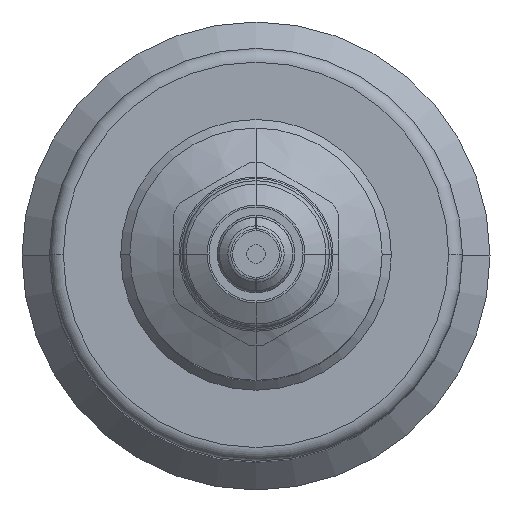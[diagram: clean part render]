
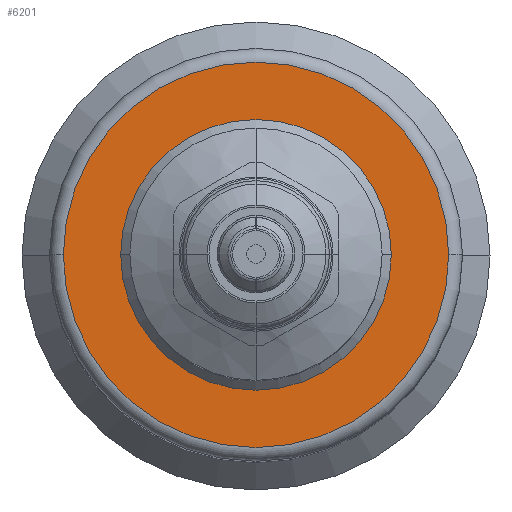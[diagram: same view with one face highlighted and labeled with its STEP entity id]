
A CAD part, top view. The second image highlights one B-rep face of the part: STEP entity #6201.
In plain terms, the highlighted planar face has unit normal (0, 0, 1).
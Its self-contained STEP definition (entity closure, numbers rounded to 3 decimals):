
#130 = PLANE ( 'NONE',  #6396 ) ;
#628 = FACE_OUTER_BOUND ( 'NONE', #3754, .T. ) ;
#1194 = EDGE_CURVE ( 'NONE', #10902, #19402, #18852, .T. ) ;
#1523 = DIRECTION ( 'NONE',  ( 0., 0., -1. ) ) ;
#1872 = ORIENTED_EDGE ( 'NONE', *, *, #9908, .F. ) ;
#2607 = ORIENTED_EDGE ( 'NONE', *, *, #1194, .T. ) ;
#3529 = CARTESIAN_POINT ( 'NONE',  ( 0., 0., 195. ) ) ;
#3700 = DIRECTION ( 'NONE',  ( 1., 0., 0. ) ) ;
#3754 = EDGE_LOOP ( 'NONE', ( #19788, #1872 ) ) ;
#4580 = AXIS2_PLACEMENT_3D ( 'NONE', #8264, #15115, #10807 ) ;
#5117 = DIRECTION ( 'NONE',  ( -1., 0., 0. ) ) ;
#6201 = ADVANCED_FACE ( 'NONE', ( #9656, #628 ), #130, .T. ) ;
#6396 = AXIS2_PLACEMENT_3D ( 'NONE', #19415, #14738, #3700 ) ;
#7534 = CARTESIAN_POINT ( 'NONE',  ( -42., 0., 195. ) ) ;
#7741 = ORIENTED_EDGE ( 'NONE', *, *, #12267, .T. ) ;
#8264 = CARTESIAN_POINT ( 'NONE',  ( 0., 0., 195. ) ) ;
#8291 = CIRCLE ( 'NONE', #17664, 42. ) ;
#8461 = EDGE_LOOP ( 'NONE', ( #7741, #2607 ) ) ;
#9189 = CARTESIAN_POINT ( 'NONE',  ( 0., 0., 195. ) ) ;
#9656 = FACE_BOUND ( 'NONE', #8461, .T. ) ;
#9908 = EDGE_CURVE ( 'NONE', #9978, #17611, #11182, .T. ) ;
#9978 = VERTEX_POINT ( 'NONE', #13309 ) ;
#10749 = DIRECTION ( 'NONE',  ( -1., 0., 0. ) ) ;
#10807 = DIRECTION ( 'NONE',  ( -1., 0., 0. ) ) ;
#10902 = VERTEX_POINT ( 'NONE', #11545 ) ;
#11094 = CARTESIAN_POINT ( 'NONE',  ( 0., 0., 195. ) ) ;
#11182 = CIRCLE ( 'NONE', #12561, 42. ) ;
#11494 = CIRCLE ( 'NONE', #20077, 29.5 ) ;
#11545 = CARTESIAN_POINT ( 'NONE',  ( 29.5, 0., 195. ) ) ;
#12267 = EDGE_CURVE ( 'NONE', #19402, #10902, #11494, .T. ) ;
#12561 = AXIS2_PLACEMENT_3D ( 'NONE', #3529, #14655, #5117 ) ;
#12690 = DIRECTION ( 'NONE',  ( -1., 0., 0. ) ) ;
#13309 = CARTESIAN_POINT ( 'NONE',  ( 42., 0., 195. ) ) ;
#13447 = CARTESIAN_POINT ( 'NONE',  ( -29.5, 0., 195. ) ) ;
#14655 = DIRECTION ( 'NONE',  ( 0., 0., -1. ) ) ;
#14738 = DIRECTION ( 'NONE',  ( 0., 0., 1. ) ) ;
#15115 = DIRECTION ( 'NONE',  ( 0., 0., -1. ) ) ;
#17611 = VERTEX_POINT ( 'NONE', #7534 ) ;
#17664 = AXIS2_PLACEMENT_3D ( 'NONE', #9189, #20279, #10749 ) ;
#18852 = CIRCLE ( 'NONE', #4580, 29.5 ) ;
#19402 = VERTEX_POINT ( 'NONE', #13447 ) ;
#19415 = CARTESIAN_POINT ( 'NONE',  ( -29.5, 0., 195. ) ) ;
#19788 = ORIENTED_EDGE ( 'NONE', *, *, #20639, .F. ) ;
#20077 = AXIS2_PLACEMENT_3D ( 'NONE', #11094, #1523, #12690 ) ;
#20279 = DIRECTION ( 'NONE',  ( 0., 0., -1. ) ) ;
#20639 = EDGE_CURVE ( 'NONE', #17611, #9978, #8291, .T. ) ;
